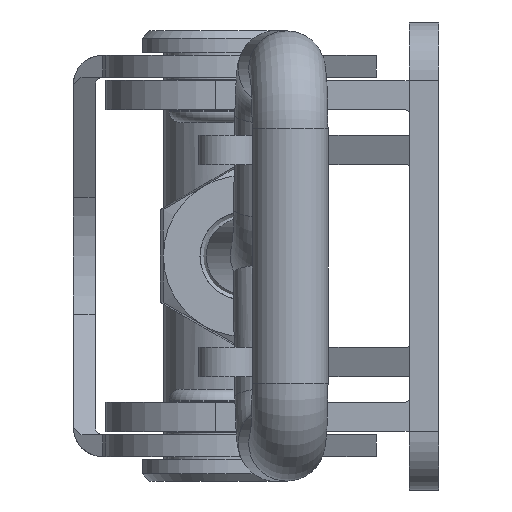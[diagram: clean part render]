
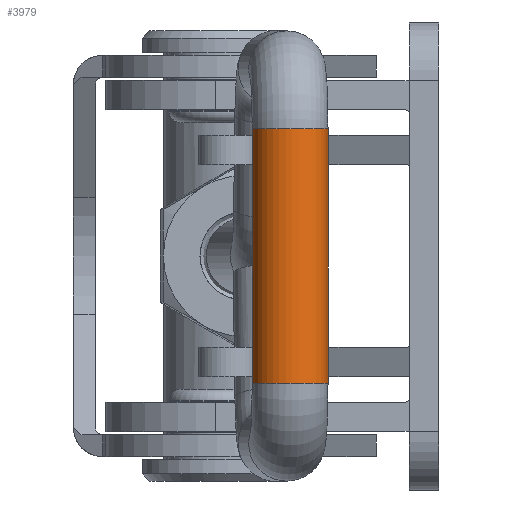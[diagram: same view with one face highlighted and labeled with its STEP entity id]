
A CAD part, left-side view. The second image highlights one B-rep face of the part: STEP entity #3979.
In plain terms, the highlighted cylindrical face has radius 2.6 mm (diameter 5.2 mm), a full revolution.
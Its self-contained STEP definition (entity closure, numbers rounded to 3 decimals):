
#160=CYLINDRICAL_SURFACE('',#4354,2.6);
#306=CIRCLE('',#4353,2.6);
#307=CIRCLE('',#4355,2.6);
#844=ORIENTED_EDGE('',*,*,#1774,.F.);
#845=ORIENTED_EDGE('',*,*,#1773,.T.);
#1773=EDGE_CURVE('',#2275,#2275,#306,.T.);
#1774=EDGE_CURVE('',#2276,#2276,#307,.T.);
#2275=VERTEX_POINT('',#6461);
#2276=VERTEX_POINT('',#6464);
#3227=EDGE_LOOP('',(#844));
#3228=EDGE_LOOP('',(#845));
#3569=FACE_BOUND('',#3227,.T.);
#3570=FACE_BOUND('',#3228,.T.);
#3979=ADVANCED_FACE('',(#3569,#3570),#160,.T.);
#4353=AXIS2_PLACEMENT_3D('',#6460,#5079,#5080);
#4354=AXIS2_PLACEMENT_3D('',#6462,#5081,#5082);
#4355=AXIS2_PLACEMENT_3D('',#6463,#5083,#5084);
#5079=DIRECTION('',(0.,0.,1.));
#5080=DIRECTION('',(1.,0.,0.));
#5081=DIRECTION('',(0.,0.,-1.));
#5082=DIRECTION('',(-1.,0.,0.));
#5083=DIRECTION('',(0.,0.,1.));
#5084=DIRECTION('',(1.,0.,0.));
#6460=CARTESIAN_POINT('',(-64.605,0.,-8.696));
#6461=CARTESIAN_POINT('',(-62.005,0.,-8.696));
#6462=CARTESIAN_POINT('',(-64.605,0.,8.694));
#6463=CARTESIAN_POINT('',(-64.605,0.,8.694));
#6464=CARTESIAN_POINT('',(-62.005,0.,8.694));
